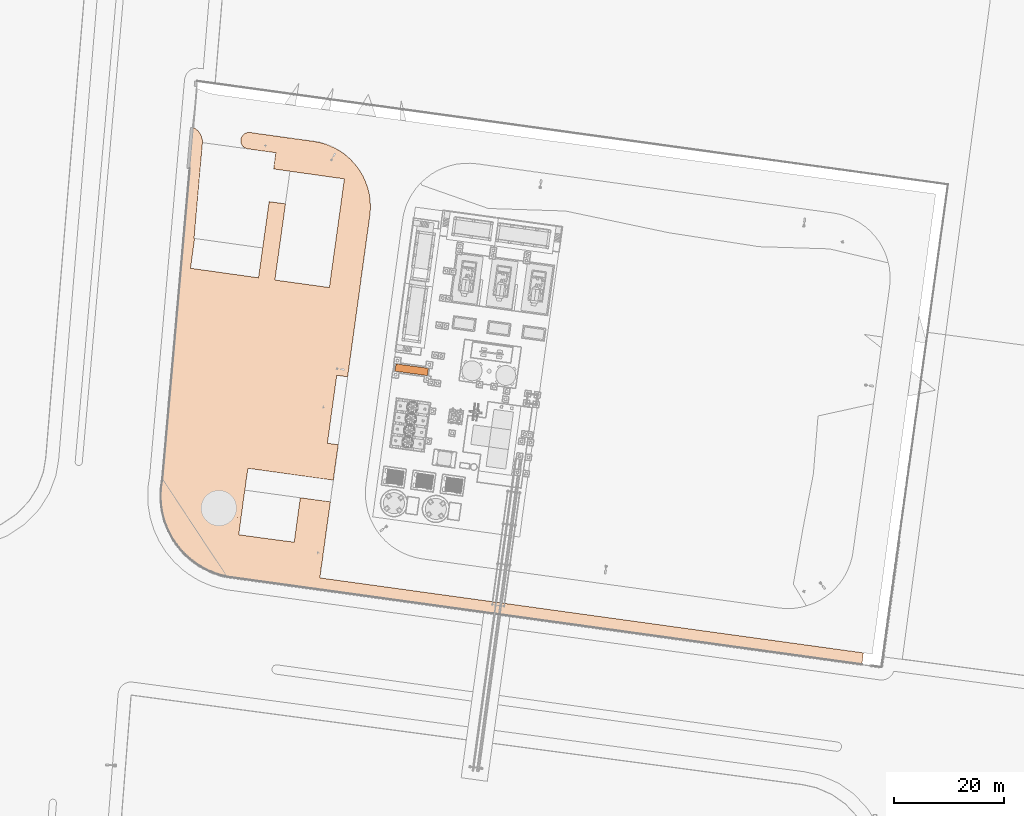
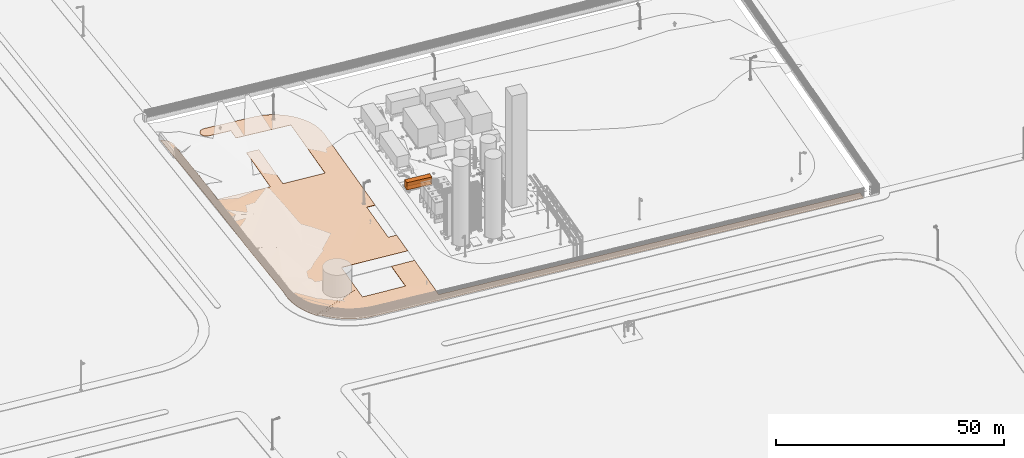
# Not in any storey, part 66 of 75: 2 proxies, 1 geographic element.
"""IFC4 model written with IfcOpenShell, lengths in metres."""

from ifc_helpers import new_model, si_unit, direction, origin, origin_with_axes, place, context, subcontext, project, spatial, triangles, element, save


model = new_model("IFC4")

# Units and contexts
model_context = context("Model", 3, precision=1e-05, world=origin_with_axes(), true_north=direction((0.0, 1.0)))
body_context = subcontext(model_context, "Body", "Model", "MODEL_VIEW")
ifc_project = project(units=[si_unit("AREAUNIT", "SQUARE_METRE"), si_unit("VOLUMEUNIT", "CUBIC_METRE"), si_unit("LENGTHUNIT", "METRE")], contexts=[model_context])

# Site
site_placement = place(None, origin_with_axes())
site = spatial("IfcSite", under=ifc_project, at=site_placement, Name="Parcela industrial Jinhong")

# Geographic element
geographic_element_placement = place(site_placement, origin_with_axes())
element("IfcGeographicElement", 1, at=geographic_element_placement, inside=site, Name="Zona verde 02", ObjectType="Zonas verdes", PredefinedType="USERDEFINED", context=body_context, shape_type="Tessellation", body=[
    triangles([(8.942876, 32.880989, 0.60698), (-5.899855, 31.492136, 0.27), (-6.070134, 32.885115, 0.27), (-6.002373, 35.67213, 0.27), (-5.764135, 37.032481, 0.270542), (9.797272, 38.859253, 0.601918), (-5.254119, 43.14951, 0.27), (-5.220074, 43.421751, 0.27), (11.726542, 73.533301, 0.550919), (-4.165936, 55.792922, 0.27), (-2.771698, 71.766925, 0.65), (-0.656647, 75.269228, 0.458667), (-2.635688, 73.534301, 0.65), (-2.465627, 75.267756, 0.65), (-0.323292, 100.282473, 0.6), (0.697766, 100.282302, 0.565858), (-0.391323, 99.29648, 0.6), (0.255393, 100.656099, 0.563764), (-0.289301, 100.656178, 0.6), (-0.255265, 100.92816, 0.6), (1.310862, 99.296262, 0.566958), (-0.459335, 98.718816, 0.6), (1.481038, 98.718729, 0.566093), (-0.493325, 98.141046, 0.6), (1.515201, 98.140159, 0.564136), (-0.013903, 80.718122, 0.484796), (-0.003121, 80.70513, 0.484832), (0.087045, 80.704747, 0.485551), (13.806509, 87.36249, 0.620818), (13.601596, 86.988645, 0.617741), (13.669475, 87.361554, 0.61972), (13.66968, 87.396589, 0.619857), (16.631166, 86.987888, 0.641642), (14.76041, 73.52938, 0.575144), (31.201403, 91.028319, 0.727167), (27.351365, 91.535082, 0.689366), (30.963144, 91.538024, 0.722137), (21.736634, 98.372412, 0.673772), (14.486151, 93.344328, 0.639503), (14.588192, 94.228075, 0.640814), (14.826286, 95.96109, 0.643538), (14.891848, 96.288606, 0.644136), (9.276921, 99.803657, 0.625153), (9.345258, 97.152582, 0.622724), (8.528064, 98.206436, 0.620424), (8.664345, 97.764558, 0.61981), (8.93672, 97.390609, 0.620545), (8.52814, 98.13847, 0.620162), (8.49407, 98.376405, 0.620551), (8.494026, 98.681986, 0.620862), (8.630173, 99.124085, 0.62186), (8.902679, 99.532024, 0.623372), (10.264152, 99.973293, 0.629294), (9.719461, 99.973455, 0.627105), (9.788047, 97.016432, 0.624365), (11.387696, 99.803012, 0.633636), (12.068799, 96.675898, 0.633184), (14.887899, 96.300067, 0.644132), (13.430247, 99.530488, 0.641567), (16.22184, 99.121779, 0.652371), (25.311638, 97.283593, 0.68703), (25.038816, 97.385843, 0.686038), (22.962005, 98.134154, 0.678454), (24.152212, 97.760401, 0.682856), (24.188292, 97.759715, 0.683001), (25.617604, 97.147747, 0.688121), (26.434781, 96.67165, 0.69092), (26.97964, 96.297535, 0.692729), (27.456103, 95.957627, 0.694297), (28.409347, 95.141689, 0.697296), (29.260942, 94.223308, 0.699783), (29.941834, 93.339455, 0.702455), (30.690564, 92.150161, 0.716239), (31.610232, 89.838072, 0.737347), (26.606176, 86.101105, 0.702552), (31.916571, 88.615048, 0.7466), (32.052973, 87.356797, 0.754222), (32.087119, 86.099793, 0.760752), (31.985097, 84.875759, 0.765674), (25.974141, 55.782145, 0.844597), (30.182073, 71.756954, 0.810896), (27.93677, 55.511291, 0.866763), (24.27315, 43.410925, 0.887234), (26.235788, 43.140049, 0.909401), (25.623445, 38.857794, 0.923909), (25.351283, 36.716572, 0.931525), (22.934159, 37.023178, 0.895471), (9.351099, 35.667706, 0.604837), (-5.593236, 30.131996, 0.27), (8.772789, 31.487466, 0.608794), (8.568633, 30.127791, 0.609731), (23.921787, 32.876307, 0.93342), (19.223861, 32.741451, 0.831577), (19.258024, 32.878518, 0.831778), (19.325972, 33.489477, 0.830839), (24.806964, 32.740071, 0.945256), (23.888454, 26.248731, 0.958947), (18.2388, 25.412682, 0.839141), (23.75235, 25.092909, 0.960559), (23.582273, 24.005584, 0.96116), (18.231142, 25.402893, 0.839013), (23.34411, 22.102036, 0.966531), (23.208055, 21.286615, 0.95363), (6.01619, 19.252498, 0.648691), (22.903032, 18.918944, 0.877773), (107.194022, 5.252554, 1.630166), (121.832272, 5.24815, 1.795264), (121.560406, 3.276882, 1.769101), (22.911097, 18.906392, 0.877505), (8.131959, 26.764486, 0.628261), (4.688399, 19.55886, 0.65), (3.360797, 20.03507, 0.65), (2.067054, 20.613328, 0.65), (0.875507, 21.293464, 0.65), (8.128031, 26.775088, 0.628096), (-0.281559, 22.109194, 0.65), (-1.33738, 23.027534, 0.65), (-2.3248, 24.013632, 0.65), (-3.175617, 25.101039, 0.65), (-3.959013, 26.257344, 0.27), (-4.63996, 27.515113, 0.27), (-5.184543, 28.806276, 0.27), (-6.104322, 34.279239, 0.27), (-5.628175, 38.867245, 0.27), (1.072504, 99.806148, 0.567018), (-1.989548, 80.705687, 0.65), (14.728876, 73.12555, 0.573652), (14.724246, 95.145484, 0.642297), (22.553656, 98.202232, 0.676882), (24.62338, 71.760244, 0.751861), (25.96116, 55.774181, 0.844498), (24.262903, 43.424447, 0.887059), (18.33941, 26.250338, 0.838015), (23.446205, 23.020021, 0.962099), (23.106007, 20.606983, 0.931655), (30.352177, 73.11655, 0.806031), (24.803139, 73.118194, 0.747107), (11.837185, 26.252261, 0.705499), (24.634553, 71.770731, 0.751928), (23.037959, 20.029077, 0.913228), (9.521216, 37.02738, 0.603159), (22.969882, 19.553004, 0.897883), (8.942876, 32.880989, 0.70698), (-5.899855, 31.492136, 0.37), (-6.070134, 32.885115, 0.37), (-6.002373, 35.67213, 0.37), (-5.764135, 37.032481, 0.370542), (9.797272, 38.859253, 0.701918), (-5.254119, 43.14951, 0.37), (-5.220074, 43.421751, 0.37), (11.726542, 73.533301, 0.650919), (-4.165936, 55.792922, 0.37), (-2.771698, 71.766925, 0.75), (-0.656647, 75.269228, 0.558667), (-2.635688, 73.534301, 0.75), (-2.465627, 75.267756, 0.75), (-0.323292, 100.282473, 0.7), (0.697766, 100.282302, 0.665858), (-0.391323, 99.29648, 0.7), (0.255393, 100.656099, 0.663764), (-0.289301, 100.656178, 0.7), (-0.255265, 100.92816, 0.7), (1.310862, 99.296262, 0.666958), (-0.459335, 98.718816, 0.7), (1.481038, 98.718729, 0.666093), (-0.493325, 98.141046, 0.7), (1.515201, 98.140159, 0.664136), (-0.013903, 80.718122, 0.584796), (-0.003121, 80.70513, 0.584832), (0.087045, 80.704747, 0.585551), (13.806509, 87.36249, 0.720818), (13.601596, 86.988645, 0.717741), (13.669475, 87.361554, 0.71972), (13.66968, 87.396589, 0.719857), (16.631166, 86.987888, 0.741642), (14.76041, 73.52938, 0.675144), (31.201403, 91.028319, 0.827167), (27.351365, 91.535082, 0.789366), (30.963144, 91.538024, 0.822137), (21.736634, 98.372412, 0.773772), (14.486151, 93.344328, 0.739503), (14.588192, 94.228075, 0.740814), (14.826286, 95.96109, 0.743538), (14.891848, 96.288606, 0.744136), (9.276921, 99.803657, 0.725153), (9.345258, 97.152582, 0.722724), (8.528064, 98.206436, 0.720424), (8.664345, 97.764558, 0.71981), (8.93672, 97.390609, 0.720545), (8.52814, 98.13847, 0.720162), (8.49407, 98.376405, 0.720551), (8.494026, 98.681986, 0.720862), (8.630173, 99.124085, 0.72186), (8.902679, 99.532024, 0.723372), (10.264152, 99.973293, 0.729294), (9.719461, 99.973455, 0.727105), (9.788047, 97.016432, 0.724365), (11.387696, 99.803012, 0.733636), (12.068799, 96.675898, 0.733184), (14.887899, 96.300067, 0.744132), (13.430247, 99.530488, 0.741567), (16.22184, 99.121779, 0.752371), (25.311638, 97.283593, 0.78703), (25.038816, 97.385843, 0.786038), (22.962005, 98.134154, 0.778454), (24.152212, 97.760401, 0.782856), (24.188292, 97.759715, 0.783001), (25.617604, 97.147747, 0.788121), (26.434781, 96.67165, 0.79092), (26.97964, 96.297535, 0.792729), (27.456103, 95.957627, 0.794297), (28.409347, 95.141689, 0.797296), (29.260942, 94.223308, 0.799783), (29.941834, 93.339455, 0.802455), (30.690564, 92.150161, 0.816239), (31.610232, 89.838072, 0.837347), (26.606176, 86.101105, 0.802552), (31.916571, 88.615048, 0.8466), (32.052973, 87.356797, 0.854222), (32.087119, 86.099793, 0.860752), (31.985097, 84.875759, 0.865674), (25.974141, 55.782145, 0.944597), (30.182073, 71.756954, 0.910896), (27.93677, 55.511291, 0.966763), (24.27315, 43.410925, 0.987234), (26.235788, 43.140049, 1.009401), (25.623445, 38.857794, 1.023909), (25.351283, 36.716572, 1.031525), (22.934159, 37.023178, 0.995471), (9.351099, 35.667706, 0.704837), (-5.593236, 30.131996, 0.37), (8.772789, 31.487466, 0.708794), (8.568633, 30.127791, 0.709731), (23.921787, 32.876307, 1.03342), (19.223861, 32.741451, 0.931577), (19.258024, 32.878518, 0.931778), (19.325972, 33.489477, 0.930839), (24.806964, 32.740071, 1.045256), (23.888454, 26.248731, 1.058947), (18.2388, 25.412682, 0.939141), (23.75235, 25.092909, 1.060559), (23.582273, 24.005584, 1.06116), (18.231142, 25.402893, 0.939013), (23.34411, 22.102036, 1.066531), (23.208055, 21.286615, 1.05363), (6.01619, 19.252498, 0.748691), (22.903032, 18.918944, 0.977773), (107.194022, 5.252554, 1.730166), (121.832272, 5.24815, 1.895264), (121.560406, 3.276882, 1.869101), (22.911097, 18.906392, 0.977505), (8.131959, 26.764486, 0.728261), (4.688399, 19.55886, 0.75), (3.360797, 20.03507, 0.75), (2.067054, 20.613328, 0.75), (0.875507, 21.293464, 0.75), (8.128031, 26.775088, 0.728096), (-0.281559, 22.109194, 0.75), (-1.33738, 23.027534, 0.75), (-2.3248, 24.013632, 0.75), (-3.175617, 25.101039, 0.75), (-3.959013, 26.257344, 0.37), (-4.63996, 27.515113, 0.37), (-5.184543, 28.806276, 0.37), (-6.104322, 34.279239, 0.37), (-5.628175, 38.867245, 0.37), (1.072504, 99.806148, 0.667018), (-1.989548, 80.705687, 0.75), (14.728876, 73.12555, 0.673652), (14.724246, 95.145484, 0.742297), (22.553656, 98.202232, 0.776882), (24.62338, 71.760244, 0.851861), (25.96116, 55.774181, 0.944498), (24.262903, 43.424447, 0.987059), (18.33941, 26.250338, 0.938015), (23.446205, 23.020021, 1.062099), (23.106007, 20.606983, 1.031655), (30.352177, 73.11655, 0.906031), (24.803139, 73.118194, 0.847107), (11.837185, 26.252261, 0.805499), (24.634553, 71.770731, 0.851928), (23.037959, 20.029077, 1.013228), (9.521216, 37.02738, 0.703159), (22.969882, 19.553004, 0.997883)], [[1, 2, 3], [1, 4, 5], [6, 7, 8], [9, 10, 11], [12, 13, 14], [15, 16, 17], [18, 15, 19], [19, 20, 18], [17, 21, 22], [22, 23, 24], [24, 25, 26], [27, 28, 12], [29, 30, 31], [31, 32, 29], [30, 33, 34], [35, 36, 37], [38, 39, 40], [38, 41, 42], [43, 44, 45], [46, 44, 47], [45, 46, 48], [45, 49, 50], [43, 51, 52], [53, 43, 54], [55, 56, 57], [58, 59, 60], [61, 36, 62], [36, 63, 64], [64, 65, 62], [36, 61, 66], [36, 67, 68], [36, 69, 70], [36, 71, 72], [36, 73, 37], [36, 35, 74], [75, 76, 77], [75, 78, 79], [80, 81, 82], [83, 84, 85], [85, 86, 87], [5, 88, 1], [89, 90, 91], [92, 93, 94], [94, 95, 92], [92, 96, 97], [98, 99, 100], [101, 102, 103], [104, 101, 105], [106, 107, 108], [109, 106, 104], [110, 111, 112], [110, 113, 114], [115, 116, 117], [115, 118, 119], [91, 120, 121], [91, 122, 89], [4, 1, 123], [6, 124, 7], [13, 12, 11], [125, 17, 16], [16, 15, 18], [21, 17, 125], [126, 12, 14], [33, 30, 29], [9, 34, 127], [38, 40, 128], [44, 43, 55], [44, 46, 45], [51, 45, 50], [55, 43, 53], [63, 36, 129], [36, 64, 62], [36, 66, 67], [36, 70, 71], [75, 74, 76], [78, 75, 77], [130, 80, 131], [87, 83, 85], [132, 87, 6], [93, 97, 133], [93, 92, 97], [102, 101, 134], [101, 103, 135], [107, 106, 109], [116, 115, 114], [120, 91, 119], [122, 91, 121], [123, 1, 3], [6, 8, 10], [23, 22, 21], [24, 23, 25], [34, 9, 30], [38, 128, 41], [56, 55, 53], [51, 43, 45], [39, 129, 36], [69, 36, 68], [74, 75, 36], [80, 130, 81], [83, 87, 132], [99, 133, 97], [98, 134, 101], [105, 109, 104], [113, 110, 112], [2, 90, 89], [27, 126, 26], [24, 26, 126], [131, 127, 130], [60, 42, 58], [59, 57, 56], [129, 39, 38], [75, 136, 137], [131, 132, 6], [133, 99, 98], [101, 104, 138], [115, 119, 91], [12, 126, 27], [57, 59, 58], [139, 81, 130], [134, 98, 100], [138, 104, 110], [9, 11, 12], [38, 42, 60], [140, 101, 135], [141, 5, 124], [73, 36, 72], [142, 101, 140], [131, 10, 9], [136, 75, 79], [105, 101, 142], [81, 137, 136], [111, 110, 104], [137, 81, 139], [114, 115, 110], [127, 131, 9], [118, 115, 117], [10, 131, 6], [2, 1, 90], [124, 6, 141], [5, 141, 88], [145, 144, 143], [147, 146, 143], [150, 149, 148], [153, 152, 151], [156, 155, 154], [159, 158, 157], [161, 157, 160], [160, 162, 161], [164, 163, 159], [166, 165, 164], [168, 167, 166], [154, 170, 169], [173, 172, 171], [171, 174, 173], [176, 175, 172], [179, 178, 177], [182, 181, 180], [184, 183, 180], [187, 186, 185], [189, 186, 188], [190, 188, 187], [192, 191, 187], [194, 193, 185], [196, 185, 195], [199, 198, 197], [202, 201, 200], [204, 178, 203], [206, 205, 178], [204, 207, 206], [208, 203, 178], [210, 209, 178], [212, 211, 178], [214, 213, 178], [179, 215, 178], [216, 177, 178], [219, 218, 217], [221, 220, 217], [224, 223, 222], [227, 226, 225], [229, 228, 227], [143, 230, 147], [233, 232, 231], [236, 235, 234], [234, 237, 236], [239, 238, 234], [242, 241, 240], [245, 244, 243], [247, 243, 246], [250, 249, 248], [246, 248, 251], [254, 253, 252], [256, 255, 252], [259, 258, 257], [261, 260, 257], [263, 262, 233], [231, 264, 233], [265, 143, 146], [149, 266, 148], [153, 154, 155], [158, 159, 267], [160, 157, 158], [267, 159, 163], [156, 154, 268], [171, 172, 175], [269, 176, 151], [270, 182, 180], [197, 185, 186], [187, 188, 186], [192, 187, 193], [195, 185, 197], [271, 178, 205], [204, 206, 178], [209, 208, 178], [213, 212, 178], [218, 216, 217], [219, 217, 220], [273, 222, 272], [227, 225, 229], [148, 229, 274], [275, 239, 235], [239, 234, 235], [276, 243, 244], [277, 245, 243], [251, 248, 249], [256, 257, 258], [261, 233, 262], [263, 233, 264], [145, 143, 265], [152, 150, 148], [163, 164, 165], [167, 165, 166], [172, 151, 176], [183, 270, 180], [195, 197, 198], [187, 185, 193], [178, 271, 181], [210, 178, 211], [178, 217, 216], [223, 272, 222], [274, 229, 225], [239, 275, 241], [243, 276, 240], [246, 251, 247], [254, 252, 255], [231, 232, 144], [168, 268, 169], [268, 168, 166], [272, 269, 273], [200, 184, 202], [198, 199, 201], [180, 181, 271], [279, 278, 217], [148, 274, 273], [240, 241, 275], [280, 246, 243], [233, 261, 257], [169, 268, 154], [200, 201, 199], [272, 223, 281], [242, 240, 276], [252, 246, 280], [154, 153, 151], [202, 184, 180], [277, 243, 282], [266, 147, 283], [214, 178, 215], [282, 243, 284], [151, 152, 273], [221, 217, 278], [284, 243, 247], [278, 279, 223], [246, 252, 253], [281, 223, 279], [252, 257, 256], [151, 273, 269], [259, 257, 260], [148, 273, 152], [232, 143, 144], [283, 148, 266], [230, 283, 147], [144, 145, 2], [2, 145, 3], [146, 147, 4], [4, 147, 5], [149, 150, 7], [7, 150, 8], [150, 152, 8], [8, 152, 10], [152, 153, 10], [10, 153, 11], [154, 151, 12], [12, 151, 9], [153, 155, 11], [11, 155, 13], [155, 156, 13], [13, 156, 14], [159, 157, 17], [17, 157, 15], [160, 158, 18], [18, 158, 16], [157, 161, 15], [15, 161, 19], [162, 160, 20], [20, 160, 18], [161, 162, 19], [19, 162, 20], [164, 159, 22], [22, 159, 17], [163, 165, 21], [21, 165, 23], [166, 164, 24], [24, 164, 22], [165, 167, 23], [23, 167, 25], [167, 168, 25], [25, 168, 26], [168, 169, 26], [26, 169, 27], [170, 154, 28], [28, 154, 12], [169, 170, 27], [27, 170, 28], [151, 172, 9], [9, 172, 30], [172, 173, 30], [30, 173, 31], [174, 171, 32], [32, 171, 29], [173, 174, 31], [31, 174, 32], [171, 175, 29], [29, 175, 33], [175, 176, 33], [33, 176, 34], [179, 177, 37], [37, 177, 35], [178, 181, 36], [36, 181, 39], [181, 182, 39], [39, 182, 40], [183, 184, 41], [41, 184, 42], [186, 189, 44], [44, 189, 47], [189, 188, 47], [47, 188, 46], [190, 187, 48], [48, 187, 45], [188, 190, 46], [46, 190, 48], [187, 191, 45], [45, 191, 49], [191, 192, 49], [49, 192, 50], [192, 193, 50], [50, 193, 51], [194, 185, 52], [52, 185, 43], [193, 194, 51], [51, 194, 52], [185, 196, 43], [43, 196, 54], [196, 195, 54], [54, 195, 53], [197, 186, 55], [55, 186, 44], [195, 198, 53], [53, 198, 56], [199, 197, 57], [57, 197, 55], [184, 200, 42], [42, 200, 58], [200, 199, 58], [58, 199, 57], [198, 201, 56], [56, 201, 59], [202, 180, 60], [60, 180, 38], [201, 202, 59], [59, 202, 60], [204, 203, 62], [62, 203, 61], [205, 206, 63], [63, 206, 64], [207, 204, 65], [65, 204, 62], [206, 207, 64], [64, 207, 65], [203, 208, 61], [61, 208, 66], [208, 209, 66], [66, 209, 67], [209, 210, 67], [67, 210, 68], [210, 211, 68], [68, 211, 69], [211, 212, 69], [69, 212, 70], [212, 213, 70], [70, 213, 71], [213, 214, 71], [71, 214, 72], [215, 179, 73], [73, 179, 37], [214, 215, 72], [72, 215, 73], [177, 216, 35], [35, 216, 74], [217, 178, 75], [75, 178, 36], [216, 218, 74], [74, 218, 76], [218, 219, 76], [76, 219, 77], [219, 220, 77], [77, 220, 78], [220, 221, 78], [78, 221, 79], [224, 222, 82], [82, 222, 80], [223, 224, 81], [81, 224, 82], [225, 226, 83], [83, 226, 84], [226, 227, 84], [84, 227, 85], [227, 228, 85], [85, 228, 86], [229, 148, 87], [87, 148, 6], [228, 229, 86], [86, 229, 87], [230, 143, 88], [88, 143, 1], [231, 144, 89], [89, 144, 2], [143, 232, 1], [1, 232, 90], [232, 233, 90], [90, 233, 91], [235, 236, 93], [93, 236, 94], [237, 234, 95], [95, 234, 92], [236, 237, 94], [94, 237, 95], [234, 238, 92], [92, 238, 96], [238, 239, 96], [96, 239, 97], [239, 241, 97], [97, 241, 99], [241, 242, 99], [99, 242, 100], [243, 240, 101], [101, 240, 98], [244, 245, 102], [102, 245, 103], [248, 246, 106], [106, 246, 104], [250, 248, 108], [108, 248, 106], [249, 250, 107], [107, 250, 108], [247, 251, 105], [105, 251, 109], [251, 249, 109], [109, 249, 107], [246, 253, 104], [104, 253, 111], [253, 254, 111], [111, 254, 112], [254, 255, 112], [112, 255, 113], [255, 256, 113], [113, 256, 114], [233, 257, 91], [91, 257, 115], [257, 252, 115], [115, 252, 110], [256, 258, 114], [114, 258, 116], [258, 259, 116], [116, 259, 117], [259, 260, 117], [117, 260, 118], [260, 261, 118], [118, 261, 119], [261, 262, 119], [119, 262, 120], [262, 263, 120], [120, 263, 121], [264, 231, 122], [122, 231, 89], [263, 264, 121], [121, 264, 122], [145, 265, 3], [3, 265, 123], [265, 146, 123], [123, 146, 4], [147, 266, 5], [5, 266, 124], [266, 149, 124], [124, 149, 7], [158, 267, 16], [16, 267, 125], [267, 163, 125], [125, 163, 21], [156, 268, 14], [14, 268, 126], [268, 166, 126], [126, 166, 24], [176, 269, 34], [34, 269, 127], [182, 270, 40], [40, 270, 128], [270, 183, 128], [128, 183, 41], [180, 271, 38], [38, 271, 129], [271, 205, 129], [129, 205, 63], [269, 272, 127], [127, 272, 130], [222, 273, 80], [80, 273, 131], [274, 225, 132], [132, 225, 83], [273, 274, 131], [131, 274, 132], [275, 235, 133], [133, 235, 93], [240, 275, 98], [98, 275, 133], [242, 276, 100], [100, 276, 134], [276, 244, 134], [134, 244, 102], [245, 277, 103], [103, 277, 135], [221, 278, 79], [79, 278, 136], [278, 223, 136], [136, 223, 81], [279, 217, 137], [137, 217, 75], [280, 243, 138], [138, 243, 101], [252, 280, 110], [110, 280, 138], [272, 281, 130], [130, 281, 139], [281, 279, 139], [139, 279, 137], [277, 282, 135], [135, 282, 140], [148, 283, 6], [6, 283, 141], [283, 230, 141], [141, 230, 88], [284, 247, 142], [142, 247, 105], [282, 284, 140], [140, 284, 142]], closed=True),
])

# Proxies
proxy_1_placement = place(site_placement, origin_with_axes())
element("IfcBuildingElementProxy", 2, at=proxy_1_placement, inside=site, Name="Bombas y dosificación · envolvente máxima H ≤ 2,00 m", ObjectType="Marcador de equipo en planta", PredefinedType="USERDEFINED", context=body_context, shape_type="Tessellation", body=[
    triangles([(36.575699, 56.535818, 1.3), (42.654125, 57.062824, 1.3), (42.47025, 55.725405, 1.3), (36.759574, 57.873237, 1.3), (42.654125, 57.062824, 3.3), (36.575699, 56.535818, 3.3), (42.47025, 55.725405, 3.3), (36.759574, 57.873237, 3.3)], [[1, 2, 3], [1, 4, 2], [5, 6, 7], [6, 5, 8], [1, 3, 7], [6, 1, 7], [2, 5, 3], [5, 7, 3], [2, 4, 8], [5, 2, 8], [1, 6, 4], [4, 6, 8]], closed=True),
])
proxy_2_placement = place(None, origin())
element("IfcBuildingElementProxy", 3, at=proxy_2_placement, inside=site, Name="Plano fuente conservado · Grupo de bombas de circulación y dosificación", context=body_context, shape_type="Tessellation", body=[
    triangles([(36.575699, 56.535818, 1.3), (42.654125, 57.062824, 1.3), (42.47025, 55.725405, 1.3), (36.759574, 57.873237, 1.3), (42.654125, 57.062824, 1.4), (36.575699, 56.535818, 1.4), (42.47025, 55.725405, 1.4), (36.759574, 57.873237, 1.4)], [[1, 2, 3], [1, 4, 2], [5, 6, 7], [6, 5, 8], [1, 3, 7], [6, 1, 7], [2, 5, 3], [5, 7, 3], [2, 4, 8], [5, 2, 8], [1, 6, 4], [4, 6, 8]], closed=True),
])

save(model, "model.ifc")
